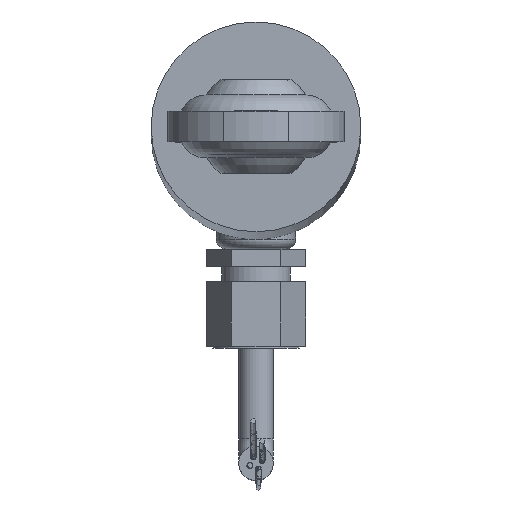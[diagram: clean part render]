
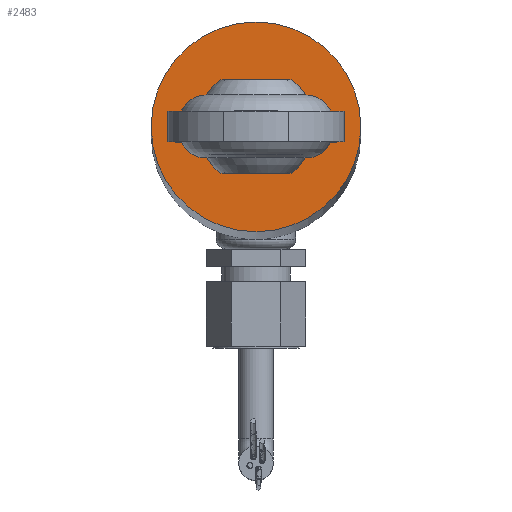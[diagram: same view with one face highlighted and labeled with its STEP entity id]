
A CAD part, top view. The second image highlights one B-rep face of the part: STEP entity #2483.
In plain terms, the highlighted planar face has unit normal (0, 0, 1).
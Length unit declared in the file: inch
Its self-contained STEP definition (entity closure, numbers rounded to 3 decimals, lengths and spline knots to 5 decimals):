
#198=FACE_BOUND('',#572,.T.);
#262=CIRCLE('',#2752,0.185);
#266=CIRCLE('',#2761,0.525);
#409=FACE_OUTER_BOUND('',#571,.T.);
#571=EDGE_LOOP('',(#1863));
#572=EDGE_LOOP('',(#1864));
#1060=VERTEX_POINT('',#4126);
#1064=VERTEX_POINT('',#4178);
#1339=EDGE_CURVE('',#1060,#1060,#262,.T.);
#1347=EDGE_CURVE('',#1064,#1064,#266,.T.);
#1863=ORIENTED_EDGE('',*,*,#1347,.T.);
#1864=ORIENTED_EDGE('',*,*,#1339,.T.);
#2223=PLANE('',#2762);
#2483=ADVANCED_FACE('',(#409,#198),#2223,.T.);
#2752=AXIS2_PLACEMENT_3D('',#4127,#3272,#3273);
#2761=AXIS2_PLACEMENT_3D('',#4179,#3291,#3292);
#2762=AXIS2_PLACEMENT_3D('',#4181,#3294,#3295);
#3272=DIRECTION('center_axis',(0.,0.,
-1.));
#3273=DIRECTION('ref_axis',(-1.,0.,0.));
#3291=DIRECTION('center_axis',(0.,0.,
1.));
#3292=DIRECTION('ref_axis',(-1.,0.,0.));
#3294=DIRECTION('center_axis',(0.,0.,
1.));
#3295=DIRECTION('ref_axis',(-1.,0.,0.));
#4126=CARTESIAN_POINT('',(0.185,0.,21.5));
#4127=CARTESIAN_POINT('Origin',(0.,0.,
21.5));
#4178=CARTESIAN_POINT('',(0.525,0.,21.5));
#4179=CARTESIAN_POINT('Origin',(0.,0.,
21.5));
#4181=CARTESIAN_POINT('Origin',(0.,0.,
21.5));
